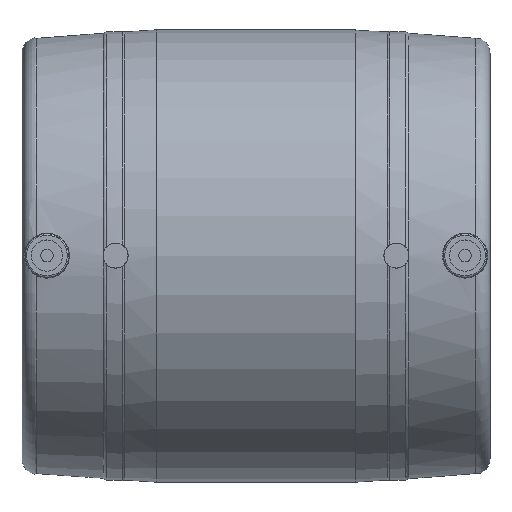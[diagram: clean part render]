
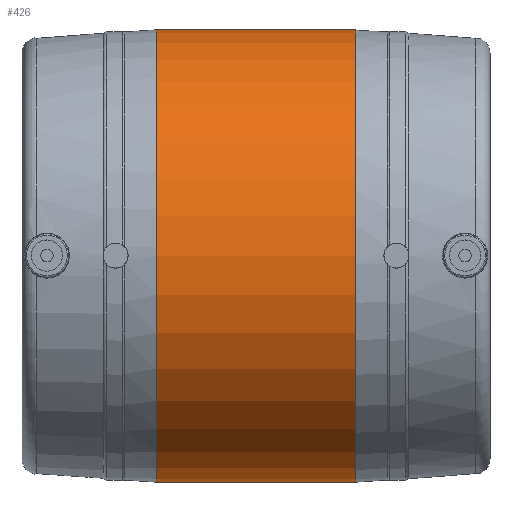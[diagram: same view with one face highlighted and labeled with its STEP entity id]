
A CAD part, top view. The second image highlights one B-rep face of the part: STEP entity #426.
In plain terms, the highlighted cylindrical face has radius 72.5 mm (diameter 145 mm), a full revolution.
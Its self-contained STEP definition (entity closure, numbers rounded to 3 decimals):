
#21=CYLINDRICAL_SURFACE('',#483,72.5);
#80=ORIENTED_EDGE('',*,*,#176,.T.);
#81=ORIENTED_EDGE('',*,*,#177,.T.);
#176=EDGE_CURVE('',#224,#224,#262,.F.);
#177=EDGE_CURVE('',#225,#225,#263,.T.);
#224=VERTEX_POINT('',#746);
#225=VERTEX_POINT('',#748);
#262=CIRCLE('',#484,72.5);
#263=CIRCLE('',#485,72.5);
#298=EDGE_LOOP('',(#80));
#299=EDGE_LOOP('',(#81));
#360=FACE_BOUND('',#298,.T.);
#361=FACE_BOUND('',#299,.T.);
#426=ADVANCED_FACE('',(#360,#361),#21,.T.);
#483=AXIS2_PLACEMENT_3D('',#744,#567,#568);
#484=AXIS2_PLACEMENT_3D('',#745,#569,#570);
#485=AXIS2_PLACEMENT_3D('',#747,#571,#572);
#567=DIRECTION('',(-1.,0.,0.));
#568=DIRECTION('',(0.,0.,1.));
#569=DIRECTION('',(1.,0.,0.));
#570=DIRECTION('',(0.,0.,-1.));
#571=DIRECTION('',(1.,0.,0.));
#572=DIRECTION('',(0.,0.,-1.));
#744=CARTESIAN_POINT('',(-60.,0.,0.));
#745=CARTESIAN_POINT('',(31.967,0.,0.));
#746=CARTESIAN_POINT('',(31.967,0.,-72.5));
#747=CARTESIAN_POINT('',(-31.967,0.,0.));
#748=CARTESIAN_POINT('',(-31.967,0.,-72.5));
